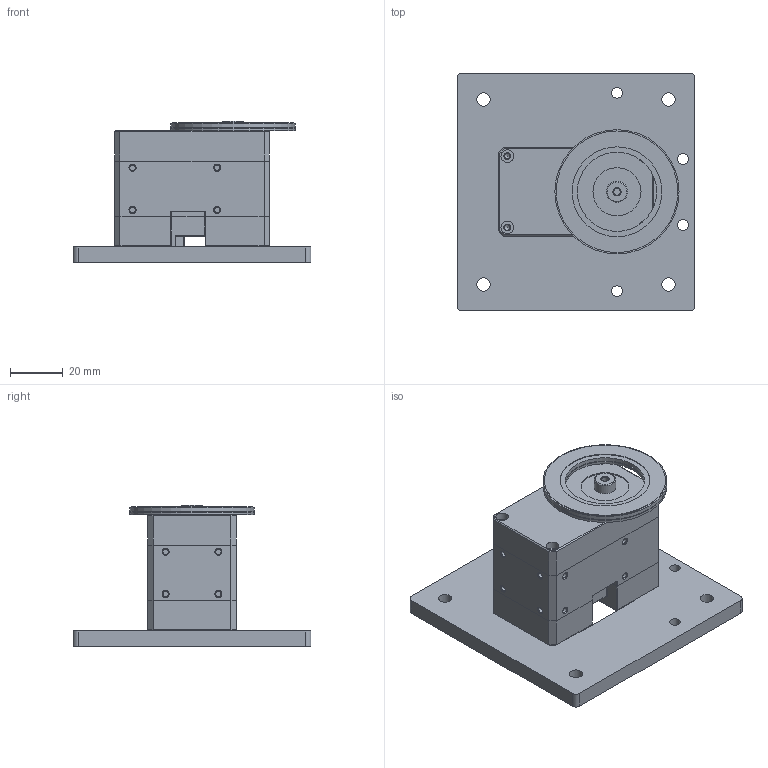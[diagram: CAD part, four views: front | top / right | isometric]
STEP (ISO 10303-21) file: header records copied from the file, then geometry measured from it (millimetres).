
FILE_DESCRIPTION(/* description */ (''),/* implementation_level */ '2;1');
FILE_NAME(/* name */ 'C:\Users\robos\OneDrive\ドキュメント\Inventor\OpenMANIPULATOR\OpenMANIPULATOR-MAX\urdf変換\om-max_link1.stp',/* time_stamp */ '2020-11-05T01:34:50+09:00',/* author */ ('Y.Shibata'),/* organization */ (''),/* preprocessor_version */ 'ST-DEVELOPER v15.2',/* originating_system */ 'Autodesk Inventor 2014',/* authorisation */ '');
FILE_SCHEMA (('AUTOMOTIVE_DESIGN { 1 0 10303 214 3 1 1 }'));
Length unit declared in the file: millimetre
Products named in the file (5): om-max-id11-1_gnd_base; XM540-W270; washer_BA3047; core_BA3047; om-max_link1
Assembly tree (4 placements, depth 2):
  om-max_link1
    om-max-id11-1_gnd_base
    XM540-W270
    washer_BA3047
    core_BA3047
Bounding box: 90 x 90 x 53.6 mm (x, y, z)
Volume: 123959.3 mm3; surface area: 43907.9 mm2
Topology: 7 solids, 7 shells, 304 faces, 680 edges, 434 vertices
Faces by surface type: plane 146, cylinder 116, cone 36, bspline 4, torus 2
Full cylindrical faces by diameter (mm): 2.05 x32, 2.5 x1, 2.6 x12, 4.1 x4, 4.8 x8, 5 x4, 5.1 x4, 8 x1, 14 x1, 18 x1, 18.2 x1, 30 x2, 34 x2, 46 x2, 47 x2
Entity records: 7921 total; most frequent: DIRECTION 1422, CARTESIAN_POINT 1304, ORIENTED_EDGE 1092, AXIS2_PLACEMENT_3D 567, EDGE_CURVE 546, EDGE_LOOP 509, VERTEX_POINT 413, ADVANCED_FACE 304
